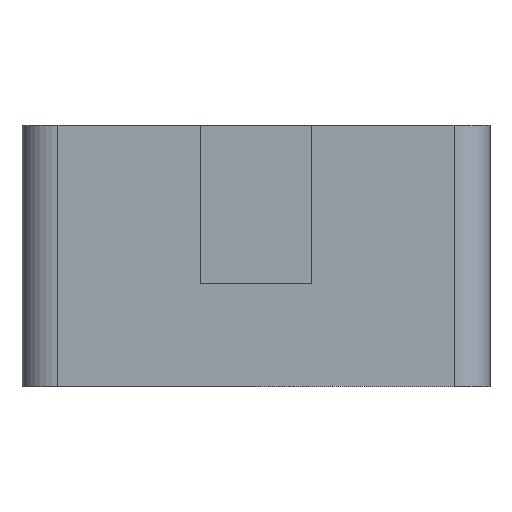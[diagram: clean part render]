
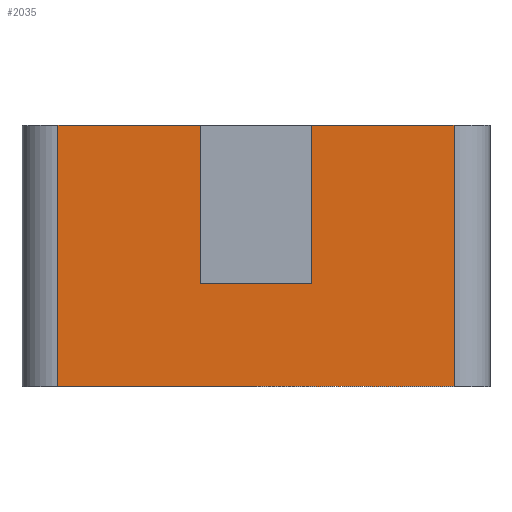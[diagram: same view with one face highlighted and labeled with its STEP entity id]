
A CAD part, left-side view. The second image highlights one B-rep face of the part: STEP entity #2035.
In plain terms, the highlighted planar face has unit normal (-1, 0, 0).
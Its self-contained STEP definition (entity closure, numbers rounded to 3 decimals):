
#44 = PLANE('',#45);
#45 = AXIS2_PLACEMENT_3D('',#46,#47,#48);
#46 = CARTESIAN_POINT('',(0.,0.,0.));
#47 = DIRECTION('',(0.,0.,1.));
#48 = DIRECTION('',(1.,0.,-0.));
#72 = CYLINDRICAL_SURFACE('',#73,4.);
#73 = AXIS2_PLACEMENT_3D('',#74,#75,#76);
#74 = CARTESIAN_POINT('',(-27.,-22.,0.));
#75 = DIRECTION('',(0.,0.,1.));
#76 = DIRECTION('',(0.,-1.,0.));
#100 = PLANE('',#101);
#101 = AXIS2_PLACEMENT_3D('',#102,#103,#104);
#102 = CARTESIAN_POINT('',(0.,0.,29.));
#103 = DIRECTION('',(0.,0.,1.));
#104 = DIRECTION('',(1.,0.,-0.));
#587 = VERTEX_POINT('',#588);
#588 = CARTESIAN_POINT('',(-31.,22.,0.));
#603 = CYLINDRICAL_SURFACE('',#604,4.);
#604 = AXIS2_PLACEMENT_3D('',#605,#606,#607);
#605 = CARTESIAN_POINT('',(-27.,22.,0.));
#606 = DIRECTION('',(0.,0.,1.));
#607 = DIRECTION('',(-0.,1.,0.));
#615 = EDGE_CURVE('',#587,#616,#618,.T.);
#616 = VERTEX_POINT('',#617);
#617 = CARTESIAN_POINT('',(-31.,-22.,0.));
#618 = SURFACE_CURVE('',#619,(#623,#630),.PCURVE_S1.);
#619 = LINE('',#620,#621);
#620 = CARTESIAN_POINT('',(-31.,26.,0.));
#621 = VECTOR('',#622,1.);
#622 = DIRECTION('',(0.,-1.,0.));
#623 = PCURVE('',#44,#624);
#624 = DEFINITIONAL_REPRESENTATION('',(#625),#629);
#625 = LINE('',#626,#627);
#626 = CARTESIAN_POINT('',(-31.,26.));
#627 = VECTOR('',#628,1.);
#628 = DIRECTION('',(0.,-1.));
#629 = ( GEOMETRIC_REPRESENTATION_CONTEXT(2) 
PARAMETRIC_REPRESENTATION_CONTEXT() REPRESENTATION_CONTEXT('2D SPACE',''
  ) );
#630 = PCURVE('',#631,#636);
#631 = PLANE('',#632);
#632 = AXIS2_PLACEMENT_3D('',#633,#634,#635);
#633 = CARTESIAN_POINT('',(-31.,26.,0.));
#634 = DIRECTION('',(1.,0.,-0.));
#635 = DIRECTION('',(0.,-1.,0.));
#636 = DEFINITIONAL_REPRESENTATION('',(#637),#641);
#637 = LINE('',#638,#639);
#638 = CARTESIAN_POINT('',(0.,0.));
#639 = VECTOR('',#640,1.);
#640 = DIRECTION('',(1.,0.));
#641 = ( GEOMETRIC_REPRESENTATION_CONTEXT(2) 
PARAMETRIC_REPRESENTATION_CONTEXT() REPRESENTATION_CONTEXT('2D SPACE',''
  ) );
#673 = EDGE_CURVE('',#616,#674,#676,.T.);
#674 = VERTEX_POINT('',#675);
#675 = CARTESIAN_POINT('',(-31.,-22.,29.));
#676 = SURFACE_CURVE('',#677,(#681,#688),.PCURVE_S1.);
#677 = LINE('',#678,#679);
#678 = CARTESIAN_POINT('',(-31.,-22.,0.));
#679 = VECTOR('',#680,1.);
#680 = DIRECTION('',(0.,0.,1.));
#681 = PCURVE('',#72,#682);
#682 = DEFINITIONAL_REPRESENTATION('',(#683),#687);
#683 = LINE('',#684,#685);
#684 = CARTESIAN_POINT('',(-1.571,0.));
#685 = VECTOR('',#686,1.);
#686 = DIRECTION('',(-0.,1.));
#687 = ( GEOMETRIC_REPRESENTATION_CONTEXT(2) 
PARAMETRIC_REPRESENTATION_CONTEXT() REPRESENTATION_CONTEXT('2D SPACE',''
  ) );
#688 = PCURVE('',#631,#689);
#689 = DEFINITIONAL_REPRESENTATION('',(#690),#694);
#690 = LINE('',#691,#692);
#691 = CARTESIAN_POINT('',(48.,0.));
#692 = VECTOR('',#693,1.);
#693 = DIRECTION('',(0.,-1.));
#694 = ( GEOMETRIC_REPRESENTATION_CONTEXT(2) 
PARAMETRIC_REPRESENTATION_CONTEXT() REPRESENTATION_CONTEXT('2D SPACE',''
  ) );
#888 = VERTEX_POINT('',#889);
#889 = CARTESIAN_POINT('',(-31.,-6.2,29.));
#903 = PLANE('',#904);
#904 = AXIS2_PLACEMENT_3D('',#905,#906,#907);
#905 = CARTESIAN_POINT('',(-34.,-6.2,11.4));
#906 = DIRECTION('',(0.,1.,0.));
#907 = DIRECTION('',(0.,0.,1.));
#914 = EDGE_CURVE('',#888,#674,#915,.T.);
#915 = SURFACE_CURVE('',#916,(#920,#927),.PCURVE_S1.);
#916 = LINE('',#917,#918);
#917 = CARTESIAN_POINT('',(-31.,26.,29.));
#918 = VECTOR('',#919,1.);
#919 = DIRECTION('',(0.,-1.,0.));
#920 = PCURVE('',#100,#921);
#921 = DEFINITIONAL_REPRESENTATION('',(#922),#926);
#922 = LINE('',#923,#924);
#923 = CARTESIAN_POINT('',(-31.,26.));
#924 = VECTOR('',#925,1.);
#925 = DIRECTION('',(0.,-1.));
#926 = ( GEOMETRIC_REPRESENTATION_CONTEXT(2) 
PARAMETRIC_REPRESENTATION_CONTEXT() REPRESENTATION_CONTEXT('2D SPACE',''
  ) );
#927 = PCURVE('',#631,#928);
#928 = DEFINITIONAL_REPRESENTATION('',(#929),#933);
#929 = LINE('',#930,#931);
#930 = CARTESIAN_POINT('',(0.,-29.));
#931 = VECTOR('',#932,1.);
#932 = DIRECTION('',(1.,0.));
#933 = ( GEOMETRIC_REPRESENTATION_CONTEXT(2) 
PARAMETRIC_REPRESENTATION_CONTEXT() REPRESENTATION_CONTEXT('2D SPACE',''
  ) );
#2035 = ADVANCED_FACE('',(#2036),#631,.F.);
#2036 = FACE_BOUND('',#2037,.F.);
#2037 = EDGE_LOOP('',(#2038,#2039,#2062,#2090,#2116,#2142,#2161,#2162));
#2038 = ORIENTED_EDGE('',*,*,#615,.F.);
#2039 = ORIENTED_EDGE('',*,*,#2040,.T.);
#2040 = EDGE_CURVE('',#587,#2041,#2043,.T.);
#2041 = VERTEX_POINT('',#2042);
#2042 = CARTESIAN_POINT('',(-31.,22.,29.));
#2043 = SURFACE_CURVE('',#2044,(#2048,#2055),.PCURVE_S1.);
#2044 = LINE('',#2045,#2046);
#2045 = CARTESIAN_POINT('',(-31.,22.,0.));
#2046 = VECTOR('',#2047,1.);
#2047 = DIRECTION('',(0.,0.,1.));
#2048 = PCURVE('',#631,#2049);
#2049 = DEFINITIONAL_REPRESENTATION('',(#2050),#2054);
#2050 = LINE('',#2051,#2052);
#2051 = CARTESIAN_POINT('',(4.,0.));
#2052 = VECTOR('',#2053,1.);
#2053 = DIRECTION('',(0.,-1.));
#2054 = ( GEOMETRIC_REPRESENTATION_CONTEXT(2) 
PARAMETRIC_REPRESENTATION_CONTEXT() REPRESENTATION_CONTEXT('2D SPACE',''
  ) );
#2055 = PCURVE('',#603,#2056);
#2056 = DEFINITIONAL_REPRESENTATION('',(#2057),#2061);
#2057 = LINE('',#2058,#2059);
#2058 = CARTESIAN_POINT('',(1.571,0.));
#2059 = VECTOR('',#2060,1.);
#2060 = DIRECTION('',(0.,1.));
#2061 = ( GEOMETRIC_REPRESENTATION_CONTEXT(2) 
PARAMETRIC_REPRESENTATION_CONTEXT() REPRESENTATION_CONTEXT('2D SPACE',''
  ) );
#2062 = ORIENTED_EDGE('',*,*,#2063,.T.);
#2063 = EDGE_CURVE('',#2041,#2064,#2066,.T.);
#2064 = VERTEX_POINT('',#2065);
#2065 = CARTESIAN_POINT('',(-31.,6.2,29.));
#2066 = SURFACE_CURVE('',#2067,(#2071,#2078),.PCURVE_S1.);
#2067 = LINE('',#2068,#2069);
#2068 = CARTESIAN_POINT('',(-31.,26.,29.));
#2069 = VECTOR('',#2070,1.);
#2070 = DIRECTION('',(0.,-1.,0.));
#2071 = PCURVE('',#631,#2072);
#2072 = DEFINITIONAL_REPRESENTATION('',(#2073),#2077);
#2073 = LINE('',#2074,#2075);
#2074 = CARTESIAN_POINT('',(0.,-29.));
#2075 = VECTOR('',#2076,1.);
#2076 = DIRECTION('',(1.,0.));
#2077 = ( GEOMETRIC_REPRESENTATION_CONTEXT(2) 
PARAMETRIC_REPRESENTATION_CONTEXT() REPRESENTATION_CONTEXT('2D SPACE',''
  ) );
#2078 = PCURVE('',#2079,#2084);
#2079 = PLANE('',#2080);
#2080 = AXIS2_PLACEMENT_3D('',#2081,#2082,#2083);
#2081 = CARTESIAN_POINT('',(0.,0.,29.));
#2082 = DIRECTION('',(0.,0.,1.));
#2083 = DIRECTION('',(1.,0.,-0.));
#2084 = DEFINITIONAL_REPRESENTATION('',(#2085),#2089);
#2085 = LINE('',#2086,#2087);
#2086 = CARTESIAN_POINT('',(-31.,26.));
#2087 = VECTOR('',#2088,1.);
#2088 = DIRECTION('',(0.,-1.));
#2089 = ( GEOMETRIC_REPRESENTATION_CONTEXT(2) 
PARAMETRIC_REPRESENTATION_CONTEXT() REPRESENTATION_CONTEXT('2D SPACE',''
  ) );
#2090 = ORIENTED_EDGE('',*,*,#2091,.F.);
#2091 = EDGE_CURVE('',#2092,#2064,#2094,.T.);
#2092 = VERTEX_POINT('',#2093);
#2093 = CARTESIAN_POINT('',(-31.,6.2,11.4));
#2094 = SURFACE_CURVE('',#2095,(#2099,#2105),.PCURVE_S1.);
#2095 = LINE('',#2096,#2097);
#2096 = CARTESIAN_POINT('',(-31.,6.2,5.7));
#2097 = VECTOR('',#2098,1.);
#2098 = DIRECTION('',(0.,-0.,1.));
#2099 = PCURVE('',#631,#2100);
#2100 = DEFINITIONAL_REPRESENTATION('',(#2101),#2104);
#2101 = B_SPLINE_CURVE_WITH_KNOTS('',1,(#2102,#2103),.UNSPECIFIED.,.F.,
  .F.,(2,2),(5.7,23.3),.PIECEWISE_BEZIER_KNOTS.);
#2102 = CARTESIAN_POINT('',(19.8,-11.4));
#2103 = CARTESIAN_POINT('',(19.8,-29.));
#2104 = ( GEOMETRIC_REPRESENTATION_CONTEXT(2) 
PARAMETRIC_REPRESENTATION_CONTEXT() REPRESENTATION_CONTEXT('2D SPACE',''
  ) );
#2105 = PCURVE('',#2106,#2111);
#2106 = PLANE('',#2107);
#2107 = AXIS2_PLACEMENT_3D('',#2108,#2109,#2110);
#2108 = CARTESIAN_POINT('',(-34.,6.2,11.4));
#2109 = DIRECTION('',(0.,1.,0.));
#2110 = DIRECTION('',(0.,0.,1.));
#2111 = DEFINITIONAL_REPRESENTATION('',(#2112),#2115);
#2112 = B_SPLINE_CURVE_WITH_KNOTS('',1,(#2113,#2114),.UNSPECIFIED.,.F.,
  .F.,(2,2),(5.7,23.3),.PIECEWISE_BEZIER_KNOTS.);
#2113 = CARTESIAN_POINT('',(0.,3.));
#2114 = CARTESIAN_POINT('',(17.6,3.));
#2115 = ( GEOMETRIC_REPRESENTATION_CONTEXT(2) 
PARAMETRIC_REPRESENTATION_CONTEXT() REPRESENTATION_CONTEXT('2D SPACE',''
  ) );
#2116 = ORIENTED_EDGE('',*,*,#2117,.T.);
#2117 = EDGE_CURVE('',#2092,#2118,#2120,.T.);
#2118 = VERTEX_POINT('',#2119);
#2119 = CARTESIAN_POINT('',(-31.,-6.2,11.4));
#2120 = SURFACE_CURVE('',#2121,(#2125,#2131),.PCURVE_S1.);
#2121 = LINE('',#2122,#2123);
#2122 = CARTESIAN_POINT('',(-31.,9.9,11.4));
#2123 = VECTOR('',#2124,1.);
#2124 = DIRECTION('',(0.,-1.,0.));
#2125 = PCURVE('',#631,#2126);
#2126 = DEFINITIONAL_REPRESENTATION('',(#2127),#2130);
#2127 = B_SPLINE_CURVE_WITH_KNOTS('',1,(#2128,#2129),.UNSPECIFIED.,.F.,
  .F.,(2,2),(3.7,16.1),.PIECEWISE_BEZIER_KNOTS.);
#2128 = CARTESIAN_POINT('',(19.8,-11.4));
#2129 = CARTESIAN_POINT('',(32.2,-11.4));
#2130 = ( GEOMETRIC_REPRESENTATION_CONTEXT(2) 
PARAMETRIC_REPRESENTATION_CONTEXT() REPRESENTATION_CONTEXT('2D SPACE',''
  ) );
#2131 = PCURVE('',#2132,#2137);
#2132 = PLANE('',#2133);
#2133 = AXIS2_PLACEMENT_3D('',#2134,#2135,#2136);
#2134 = CARTESIAN_POINT('',(-34.,-6.2,11.4));
#2135 = DIRECTION('',(0.,0.,1.));
#2136 = DIRECTION('',(1.,0.,0.));
#2137 = DEFINITIONAL_REPRESENTATION('',(#2138),#2141);
#2138 = B_SPLINE_CURVE_WITH_KNOTS('',1,(#2139,#2140),.UNSPECIFIED.,.F.,
  .F.,(2,2),(3.7,16.1),.PIECEWISE_BEZIER_KNOTS.);
#2139 = CARTESIAN_POINT('',(3.,12.4));
#2140 = CARTESIAN_POINT('',(3.,0.));
#2141 = ( GEOMETRIC_REPRESENTATION_CONTEXT(2) 
PARAMETRIC_REPRESENTATION_CONTEXT() REPRESENTATION_CONTEXT('2D SPACE',''
  ) );
#2142 = ORIENTED_EDGE('',*,*,#2143,.T.);
#2143 = EDGE_CURVE('',#2118,#888,#2144,.T.);
#2144 = SURFACE_CURVE('',#2145,(#2149,#2155),.PCURVE_S1.);
#2145 = LINE('',#2146,#2147);
#2146 = CARTESIAN_POINT('',(-31.,-6.2,5.7));
#2147 = VECTOR('',#2148,1.);
#2148 = DIRECTION('',(0.,-0.,1.));
#2149 = PCURVE('',#631,#2150);
#2150 = DEFINITIONAL_REPRESENTATION('',(#2151),#2154);
#2151 = B_SPLINE_CURVE_WITH_KNOTS('',1,(#2152,#2153),.UNSPECIFIED.,.F.,
  .F.,(2,2),(5.7,23.3),.PIECEWISE_BEZIER_KNOTS.);
#2152 = CARTESIAN_POINT('',(32.2,-11.4));
#2153 = CARTESIAN_POINT('',(32.2,-29.));
#2154 = ( GEOMETRIC_REPRESENTATION_CONTEXT(2) 
PARAMETRIC_REPRESENTATION_CONTEXT() REPRESENTATION_CONTEXT('2D SPACE',''
  ) );
#2155 = PCURVE('',#903,#2156);
#2156 = DEFINITIONAL_REPRESENTATION('',(#2157),#2160);
#2157 = B_SPLINE_CURVE_WITH_KNOTS('',1,(#2158,#2159),.UNSPECIFIED.,.F.,
  .F.,(2,2),(5.7,23.3),.PIECEWISE_BEZIER_KNOTS.);
#2158 = CARTESIAN_POINT('',(0.,3.));
#2159 = CARTESIAN_POINT('',(17.6,3.));
#2160 = ( GEOMETRIC_REPRESENTATION_CONTEXT(2) 
PARAMETRIC_REPRESENTATION_CONTEXT() REPRESENTATION_CONTEXT('2D SPACE',''
  ) );
#2161 = ORIENTED_EDGE('',*,*,#914,.T.);
#2162 = ORIENTED_EDGE('',*,*,#673,.F.);
